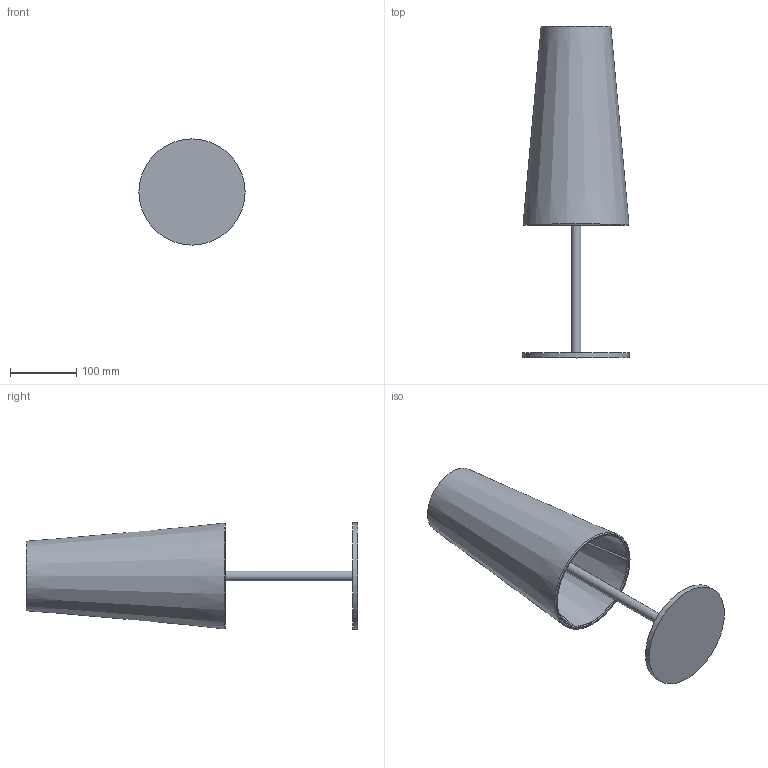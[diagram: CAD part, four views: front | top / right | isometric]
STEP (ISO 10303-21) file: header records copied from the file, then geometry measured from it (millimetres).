
FILE_DESCRIPTION(/* description */ (''),/* implementation_level */ '2;1');
FILE_NAME(/* name */ 'C:/Users/kubaw/OneDrive/Pulpit/Nowy folder/5173_UMBRELLA v4/5713_UMBRELLA v5.step',/* time_stamp */ '2021-03-13T09:44:53+01:00',/* author */ (''),/* organization */ (''),/* preprocessor_version */ 'ST-DEVELOPER v18.1',/* originating_system */ 'Autodesk Translation Framework v9.10.0.1330',/* authorisation */ '');
FILE_SCHEMA (('AUTOMOTIVE_DESIGN { 1 0 10303 214 3 1 1 }'));
Length unit declared in the file: millimetre
Products named in the file (2): 5713_UMBRELLA; MOCOWANIE_UMBRELLA
Assembly tree (1 placements, depth 2):
  5713_UMBRELLA
    MOCOWANIE_UMBRELLA
Bounding box: 160 x 500 x 160 mm (x, y, z)
Volume: 494595.3 mm3; surface area: 329539.3 mm2
Topology: 11 solids, 11 shells, 50 faces, 75 edges, 50 vertices
Faces by surface type: plane 25, cylinder 16, torus 6, cone 2, bspline 1
Full cylindrical faces by diameter (mm): 3 x6, 15 x1, 21.7 x1, 25.2 x1, 25.9 x1, 28 x1, 35 x1, 39.2 x1, 40.6 x1, 150.344 x1, 160 x1
Entity records: 1277 total; most frequent: CARTESIAN_POINT 263, DIRECTION 232, ORIENTED_EDGE 150, AXIS2_PLACEMENT_3D 107, EDGE_CURVE 75, EDGE_LOOP 57, CIRCLE 54, FACE_OUTER_BOUND 50
